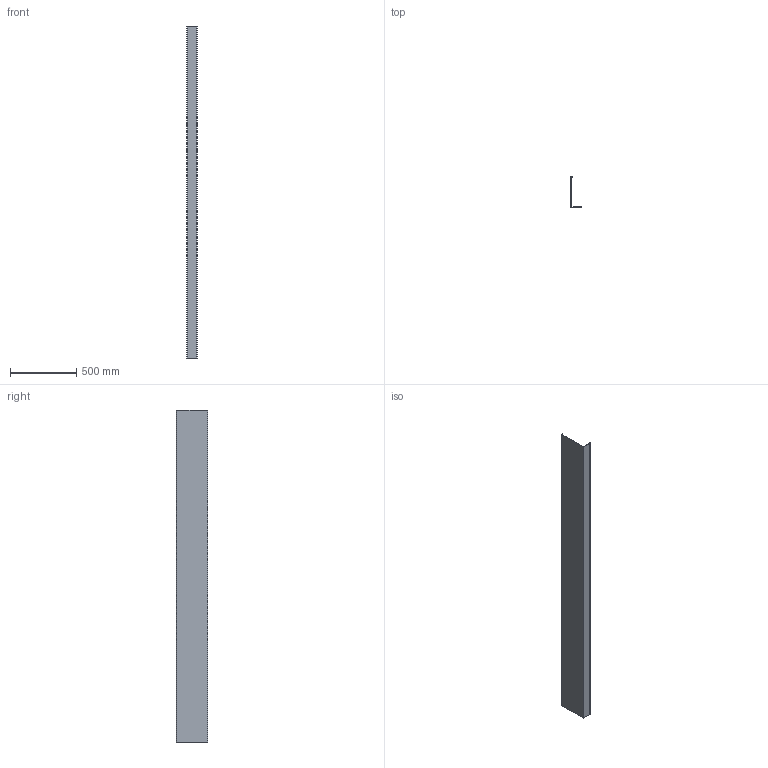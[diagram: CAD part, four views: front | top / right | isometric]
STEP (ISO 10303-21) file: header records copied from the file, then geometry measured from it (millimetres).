
FILE_DESCRIPTION(/* description */ ('TURBOFLEX Covercap TL-3621 L=2500mm, aluminum mill finish'),/* implementation_level */ '2;1');
FILE_NAME(/* name */ '1036212021x.stp',/* time_stamp */ '2025-11-13T10:29:47+01:00',/* author */ ('nethmini'),/* organization */ (''),/* preprocessor_version */ 'ST-DEVELOPER v19.2',/* originating_system */ 'Autodesk Inventor 2024',/* authorisation */ '');
FILE_SCHEMA (('AUTOMOTIVE_DESIGN { 1 0 10303 214 3 1 1 }'));
Length unit declared in the file: millimetre
Products named in the file (1): 10362120210
Bounding box: 75.94 x 234.85 x 2500 mm (x, y, z)
Volume: 1590510.1 mm3; surface area: 1598061.7 mm2
Topology: 1 solids, 1 shells, 28 faces, 78 edges, 52 vertices
Faces by surface type: plane 15, cylinder 13
Entity records: 951 total; most frequent: DIRECTION 162, CARTESIAN_POINT 159, ORIENTED_EDGE 156, EDGE_CURVE 78, AXIS2_PLACEMENT_3D 55, LINE 52, VECTOR 52, VERTEX_POINT 52
